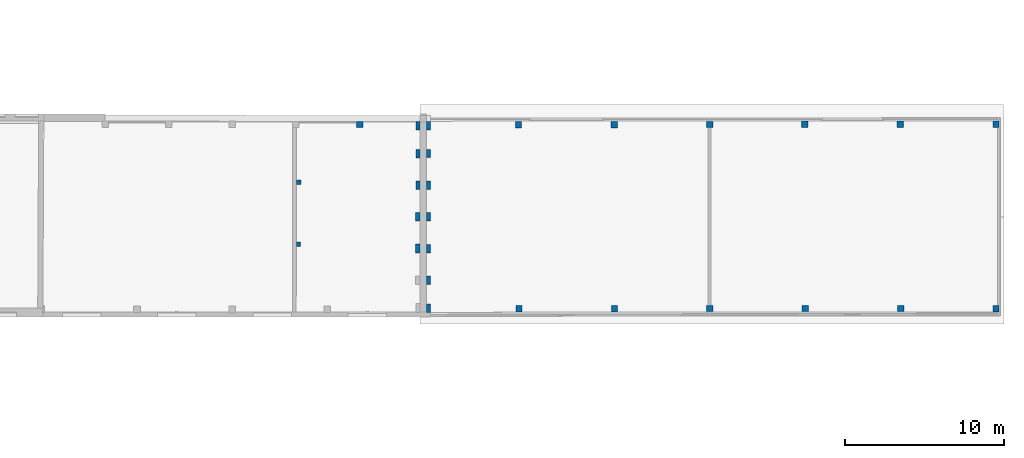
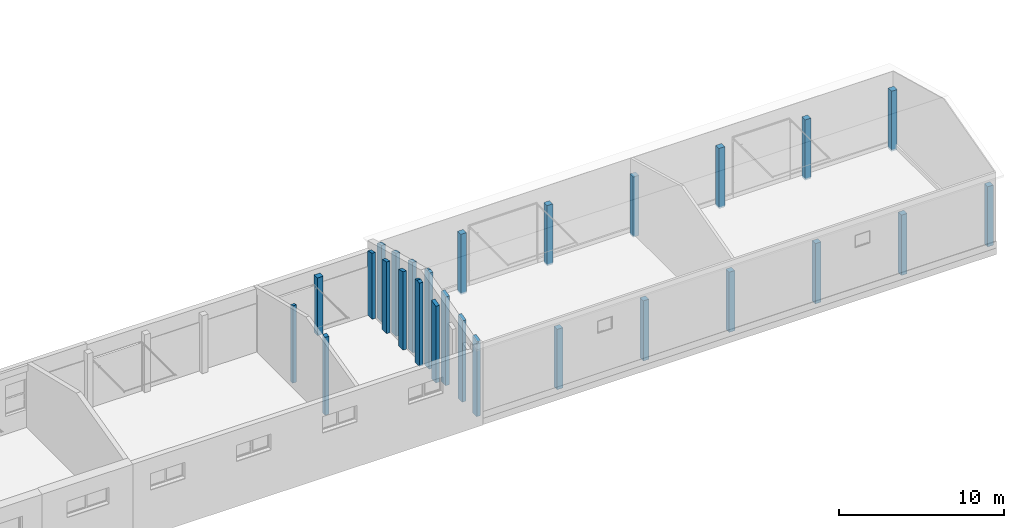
# One storey, part 21 of 301: 27 columns.
"""IFC2X3 building model written with IfcOpenShell, lengths in millimetres."""

from ifc_helpers import new_model, entity, si_unit, converted_unit, derived_unit, money_unit, direction, frame, origin_with_axes, place, context, subcontext, project, spatial, faceted_brep, material, type_object, element, save


model = new_model("IFC2X3")

# Units and contexts
model_context = context("Model", 3, precision=0.01, world=origin_with_axes(), true_north=direction((0.0, 1.0)))
body_context = subcontext(model_context, "Body", "Model", "MODEL_VIEW")
ifc_project = project(units=[si_unit("LENGTHUNIT", "METRE", prefix="MILLI"), si_unit("AREAUNIT", "SQUARE_METRE"), si_unit("VOLUMEUNIT", "CUBIC_METRE"), converted_unit("PLANEANGLEUNIT", "DEGREE", entity("IfcPlaneAngleMeasure", 0.0174532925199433), si_unit("PLANEANGLEUNIT", "RADIAN"), dimensions=[0, 0, 0, 0, 0, 0, 0]), money_unit("EUR"), converted_unit("TIMEUNIT", "Year", entity("IfcTimeMeasure", 31557600.0), si_unit("TIMEUNIT", "SECOND"), dimensions=[0, 0, 1, 0, 0, 0, 0]), si_unit("MASSUNIT", "GRAM", prefix="KILO"), si_unit("THERMODYNAMICTEMPERATUREUNIT", "DEGREE_CELSIUS"), si_unit("LUMINOUSINTENSITYUNIT", "LUMEN"), si_unit("ENERGYUNIT", "JOULE", prefix="MEGA"), derived_unit("THERMALCONDUCTANCEUNIT", [(si_unit("POWERUNIT", "WATT"), 1), (si_unit("LENGTHUNIT", "METRE"), -1), (si_unit("THERMODYNAMICTEMPERATUREUNIT", "KELVIN"), -1)]), derived_unit("SPECIFICHEATCAPACITYUNIT", [(si_unit("ENERGYUNIT", "JOULE"), 1), (si_unit("MASSUNIT", "GRAM", prefix="KILO"), -1), (si_unit("THERMODYNAMICTEMPERATUREUNIT", "KELVIN"), -1)]), derived_unit("MASSDENSITYUNIT", [(si_unit("MASSUNIT", "GRAM", prefix="KILO"), 1), (si_unit("VOLUMEUNIT", "CUBIC_METRE"), -1)])], contexts=[model_context])

# Site, building, storey
site_placement = place(None, frame((0.0, 0.0, 8650.0), z_axis=(0.0, 0.0, 1.0), x_axis=(1.0, 0.0, 0.0)))
site = spatial("IfcSite", under=ifc_project, at=site_placement, Name="43301:001:0844", CompositionType="ELEMENT")
building_placement = place(site_placement, origin_with_axes())
building = spatial("IfcBuilding", under=site, at=building_placement, Name="Kuressaare Ametikooli tuulikute mehaanikute õppekorpus", CompositionType="ELEMENT")
storey_placement = place(building_placement, origin_with_axes())
storey = spatial("IfcBuildingStorey", under=building, at=storey_placement, Name="1.korrus", CompositionType="ELEMENT", Elevation=0.0)

# Columns
ifc_material = material(Name="GENEERILINE - KONSTRUKTRIOON")
column_type_1 = type_object("IfcColumnType", Name="GENEERILINE - KONSTRUKTRIOON 400 x 400", PredefinedType="NOTDEFINED")
for number, where, z_axis, x_axis in (
    (1, (206515.3923405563, 14012.65797418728, -450.0), (0.0, 0.0, 1.0), (-1.0, 0.0, 0.0)),
    (2, (212540.3923405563, 14027.65797418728, -450.0), (0.0, 0.0, 1.0), (-1.0, 0.0, 0.0)),
    (3, (218545.3923405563, 14042.65797418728, -450.0), (0.0, 0.0, 1.0), (-1.0, 0.0, 0.0)),
    (4, (224565.3923405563, 14042.65797418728, -450.0), (0.0, 0.0, 1.0), (-1.0, 0.0, 0.0)),
):
    element("IfcColumn", number, at=place(storey_placement, frame(where, z_axis=z_axis, x_axis=x_axis)), inside=storey, type_object=column_type_1, material=ifc_material, context=body_context, shape_type="Brep", body=[
        faceted_brep([(-199.9999999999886, -199.9999999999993, 4450.0), (-199.9999999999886, -199.9999999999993, 0.0), (200.0000000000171, -199.9999999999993, 0.0), (200.0000000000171, -199.9999999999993, 4450.0), (-199.9999999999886, 200.0000000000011, 4450.0), (-199.9999999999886, 200.0000000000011, 0.0), (200.0000000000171, 200.0000000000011, 0.0), (200.0000000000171, 200.0000000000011, 4450.0)], [[[0, 1, 2, 3]], [[4, 5, 1, 0]], [[2, 1, 5, 6]], [[3, 2, 6, 7]], [[4, 0, 3, 7]], [[7, 6, 5, 4]]]),
    ])
column_1_placement = place(storey_placement, frame((230585.3923405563, 14042.65797418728, -450.0), z_axis=(0.0, 0.0, 1.0), x_axis=(-1.0, 0.0, 0.0)))
element("IfcColumn", 5, at=column_1_placement, inside=storey, type_object=column_type_1, material=ifc_material, context=body_context, shape_type="Brep", body=[
    faceted_brep([(-199.9999999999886, -199.9999999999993, 4450.0), (-199.9999999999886, -199.9999999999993, 0.0), (200.0000000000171, -199.9999999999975, 0.0), (200.0000000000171, -199.9999999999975, 4450.0), (-199.9999999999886, 200.0000000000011, 4450.0), (-199.9999999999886, 200.0000000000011, 0.0), (200.0000000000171, 200.0000000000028, 0.0), (200.0000000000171, 200.0000000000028, 4450.0)], [[[0, 1, 2, 3]], [[4, 5, 1, 0]], [[2, 1, 5, 6]], [[3, 2, 6, 7]], [[4, 0, 3, 7]], [[7, 6, 5, 4]]]),
])
for number, where, z_axis, x_axis in (
    (6, (206485.3923405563, 25612.65797418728, -450.0), (0.0, 0.0, 1.0), (-1.0, 0.0, 0.0)),
    (7, (212520.3923405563, 25627.65797418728, -450.0), (0.0, 0.0, 1.0), (-1.0, 0.0, 0.0)),
    (8, (224540.3923405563, 25647.65797418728, -450.0), (0.0, 0.0, 1.0), (-1.0, 0.0, 0.0)),
    (9, (230560.412329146, 25646.65845933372, -450.0), (0.0, 0.0, 1.0), (-1.0, 0.0, 0.0)),
):
    element("IfcColumn", number, at=place(storey_placement, frame(where, z_axis=z_axis, x_axis=x_axis)), inside=storey, type_object=column_type_1, material=ifc_material, context=body_context, shape_type="Brep", body=[
        faceted_brep([(-199.9999999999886, -199.9999999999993, 4450.0), (-199.9999999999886, -199.9999999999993, 0.0), (200.0000000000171, -199.9999999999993, 0.0), (200.0000000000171, -199.9999999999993, 4450.0), (-199.9999999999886, 199.9999999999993, 4450.0), (-199.9999999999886, 199.9999999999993, 0.0), (200.0000000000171, 199.9999999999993, 0.0), (200.0000000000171, 199.9999999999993, 4450.0)], [[[0, 1, 2, 3]], [[4, 5, 1, 0]], [[2, 1, 5, 6]], [[3, 2, 6, 7]], [[4, 0, 3, 7]], [[7, 6, 5, 4]]]),
    ])
column_2_placement = place(storey_placement, frame((236596.0833386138, 25661.6584239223, -450.0), z_axis=(0.0, 0.0, 1.0), x_axis=(-1.0, 0.0, 0.0)))
element("IfcColumn", 10, at=column_2_placement, inside=storey, type_object=column_type_1, material=ifc_material, context=body_context, shape_type="Brep", body=[
    faceted_brep([(-200.0000354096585, -200.0000354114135, 4450.0), (-200.0000354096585, -200.0000354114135, 0.0), (200.0000354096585, -200.0000354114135, 0.0), (200.0000354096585, -200.0000354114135, 4450.0), (-200.0000354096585, 200.0000354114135, 4450.0), (-200.0000354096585, 200.0000354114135, 0.0), (200.0000354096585, 200.0000354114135, 0.0), (200.0000354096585, 200.0000354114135, 4450.0)], [[[0, 1, 2, 3]], [[4, 5, 1, 0]], [[2, 1, 5, 6]], [[3, 2, 6, 7]], [[4, 0, 3, 7]], [[7, 6, 5, 4]]]),
])
column_3_placement = place(storey_placement, frame((236596.0833740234, 14032.65797418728, -450.0), z_axis=(0.0, 0.0, 1.0), x_axis=(-1.0, 0.0, 0.0)))
element("IfcColumn", 11, at=column_3_placement, inside=storey, type_object=column_type_1, material=ifc_material, context=body_context, shape_type="Brep", body=[
    faceted_brep([(-199.9999999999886, -200.0000000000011, 4450.0), (-199.9999999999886, -200.0000000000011, 0.0), (200.0000000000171, -199.9999999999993, 0.0), (200.0000000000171, -199.9999999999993, 4450.0), (-199.9999999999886, 199.9999999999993, 4450.0), (-199.9999999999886, 199.9999999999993, 0.0), (200.0000000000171, 200.0000000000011, 0.0), (200.0000000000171, 200.0000000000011, 4450.0)], [[[0, 1, 2, 3]], [[4, 5, 1, 0]], [[2, 1, 5, 6]], [[3, 2, 6, 7]], [[4, 0, 3, 7]], [[7, 6, 5, 4]]]),
])
column_4_placement = place(storey_placement, frame((218540.2879932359, 25636.9884853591, -450.0), z_axis=(0.0, 0.0, 1.0), x_axis=(-1.0, 0.0, 0.0)))
element("IfcColumn", 12, at=column_4_placement, inside=storey, type_object=column_type_1, material=ifc_material, context=body_context, shape_type="Brep", body=[
    faceted_brep([(-199.9999999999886, -199.9999999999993, 4450.0), (-199.9999999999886, -199.9999999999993, 0.0), (200.0000000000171, -199.9999999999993, 0.0), (200.0000000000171, -199.9999999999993, 4450.0), (-199.9999999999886, 199.9999999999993, 4450.0), (-199.9999999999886, 199.9999999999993, 0.0), (200.0000000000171, 199.9999999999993, 0.0), (200.0000000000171, 199.9999999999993, 4450.0)], [[[0, 1, 2, 3]], [[4, 5, 1, 0]], [[2, 1, 5, 6]], [[3, 2, 6, 7]], [[4, 0, 3, 7]], [[7, 6, 5, 4]]]),
])
column_5_placement = place(storey_placement, frame((196485.2329982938, 25634.57181605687, 0.0), z_axis=(0.0, 0.0, 1.0), x_axis=(-0.9999994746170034, 0.001025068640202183, 0.0)))
element("IfcColumn", 13, at=column_5_placement, inside=storey, type_object=column_type_1, material=ifc_material, context=body_context, shape_type="Brep", body=[
    faceted_brep([(-200.0000000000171, -199.9999999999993, 4270.0), (-200.0000000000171, -199.9999999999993, 0.0), (199.9999999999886, -199.9999999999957, 0.0), (199.9999999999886, -199.9999999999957, 4270.0), (-200.0000000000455, 200.0000000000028, 4270.0), (-200.0000000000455, 200.0000000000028, 0.0), (199.9999999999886, 200.0000000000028, 0.0), (199.9999999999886, 200.0000000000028, 4270.0)], [[[0, 1, 2, 3]], [[4, 5, 1, 0]], [[2, 1, 5, 6]], [[3, 2, 6, 7]], [[4, 0, 3, 7]], [[7, 6, 5, 4]]]),
])
column_type_2 = type_object("IfcColumnType", Name="GENEERILINE - KONSTRUKTRIOON 275 x 270", PredefinedType="NOTDEFINED")
column_6_placement = place(storey_placement, frame((192626.035155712, 21986.64655433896, 0.0), z_axis=(0.0, 0.0, 1.0), x_axis=(0.002056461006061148, 0.9999978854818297, 0.0)))
element("IfcColumn", 14, at=column_6_placement, inside=storey, type_object=column_type_2, material=ifc_material, context=body_context, shape_type="Brep", body=[
    faceted_brep([(137.5020830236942, 135.0000004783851, 5642.852324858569), (137.5020830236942, -135.000000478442, 5642.988411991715), (137.5020830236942, -135.000000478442, 0.0), (137.5020830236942, 135.0000004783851, 0.0), (-137.5020830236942, -135.000000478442, 5710.39016240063), (-137.5020830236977, 135.0000004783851, 5710.254075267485), (-137.5020830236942, -135.000000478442, 0.0), (-137.5020830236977, 135.0000004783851, 0.0)], [[[0, 1, 2, 3]], [[4, 1, 0, 5]], [[1, 4, 6, 2]], [[3, 2, 6, 7]], [[5, 0, 3, 7]], [[4, 5, 7, 6]]]),
])
column_type_3 = type_object("IfcColumnType", Name="GENEERILINE - KONSTRUKTRIOON 275 x 275", PredefinedType="NOTDEFINED")
column_7_placement = place(storey_placement, frame((192620.5161542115, 18086.64144746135, 0.0), z_axis=(0.0, 0.0, 1.0), x_axis=(0.002056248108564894, 0.9999978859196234, 0.0)))
element("IfcColumn", 15, at=column_7_placement, inside=storey, type_object=column_type_3, material=ifc_material, context=body_context, shape_type="Brep", body=[
    faceted_brep([(137.5020830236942, 137.5002461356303, 5816.069493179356), (137.5020830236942, -137.5002461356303, 5815.931804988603), (137.5020830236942, -137.5002461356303, 0.0), (137.5020830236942, 137.5002461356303, 0.0), (-137.5020830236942, -137.5002461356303, 5748.970168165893), (-137.5020830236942, 137.5002461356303, 5749.107856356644), (-137.5020830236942, -137.5002461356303, 0.0), (-137.5020830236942, 137.5002461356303, 0.0)], [[[0, 1, 2, 3]], [[4, 1, 0, 5]], [[1, 4, 6, 2]], [[3, 2, 6, 7]], [[5, 0, 3, 7]], [[4, 5, 7, 6]]]),
])
column_type_4 = type_object("IfcColumnType", Name="GENEERILINE - KONSTRUKTRIOON 540 x 240", PredefinedType="NOTDEFINED")
column_8_placement = place(storey_placement, frame((200143.6190144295, 23806.4340144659, 0.0), z_axis=(0.0, 0.0, 1.0), x_axis=(0.0, 1.0, 0.0)))
element("IfcColumn", 16, at=column_8_placement, inside=storey, type_object=column_type_4, material=ifc_material, context=body_context, shape_type="Brep", body=[
    faceted_brep([(270.0000009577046, 120.0012858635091, 5164.426709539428), (270.0000009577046, -120.0012860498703, 5164.426709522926), (270.0000009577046, -120.0012858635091, 0.0), (270.0000009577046, 120.0012858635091, 0.0), (-270.0000009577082, -120.0012860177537, 5296.777512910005), (-270.0000009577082, 120.0012858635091, 5296.777512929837), (-270.0000009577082, -120.0012858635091, 0.0), (-270.0000009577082, 120.0012858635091, 0.0)], [[[0, 1, 2, 3]], [[4, 1, 0, 5]], [[1, 4, 6, 2]], [[3, 2, 6, 7]], [[5, 0, 3, 7]], [[4, 5, 7, 6]]]),
])
column_type_5 = type_object("IfcColumnType", Name="GENEERILINE - KONSTRUKTRIOON 540 x 250", PredefinedType="NOTDEFINED")
column_9_placement = place(storey_placement, frame((200138.6202894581, 21806.4340144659, 0.0), z_axis=(0.0, 0.0, 1.0), x_axis=(0.0, 1.0, 0.0)))
element("IfcColumn", 17, at=column_9_placement, inside=storey, type_object=column_type_5, material=ifc_material, context=body_context, shape_type="Brep", body=[
    faceted_brep([(270.0000009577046, 125.0000108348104, 5654.614868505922), (270.0000009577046, -125.0000109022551, 5654.614868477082), (270.0000009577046, -125.0000108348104, 0.0), (270.0000009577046, 125.0000108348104, 0.0), (-270.0000009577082, -125.0000108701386, 5786.965671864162), (-270.0000009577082, 125.0000108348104, 5786.965671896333), (-270.0000009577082, -125.0000108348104, 0.0), (-270.0000009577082, 125.0000108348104, 0.0)], [[[0, 1, 2, 3]], [[4, 1, 0, 5]], [[1, 4, 6, 2]], [[3, 2, 6, 7]], [[5, 0, 3, 7]], [[4, 5, 7, 6]]]),
])
column_type_6 = type_object("IfcColumnType", Name="GENEERILINE - KONSTRUKTRIOON 540 x 260", PredefinedType="NOTDEFINED")
column_10_placement = place(storey_placement, frame((200133.6202906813, 19826.4340144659, 0.0), z_axis=(0.0, 0.0, 1.0), x_axis=(0.0, 1.0, 0.0)))
element("IfcColumn", 18, at=column_10_placement, inside=storey, type_object=column_type_6, material=ifc_material, context=body_context, shape_type="Brep", body=[
    faceted_brep([(270.0000009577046, 130.0000096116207, 6139.901145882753), (270.0000009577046, -130.0000095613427, 6139.901145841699), (270.0000009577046, -130.0000096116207, 0.0), (270.0000009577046, 130.0000096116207, 0.0), (-0.1469342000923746, -130.0000095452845, 6206.112560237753), (-0.1469342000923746, 130.0000096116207, 6206.112560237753), (-270.0000009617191, -130.0000095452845, 6140.405042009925), (-270.0000009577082, -130.0000096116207, 0.0), (-270.0000009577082, 130.0000096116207, 0.0), (-270.0000009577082, 130.0000096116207, 6140.405041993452)], [[[0, 1, 2, 3]], [[4, 1, 0, 5]], [[4, 6, 7, 2, 1]], [[3, 2, 7, 8]], [[5, 0, 3, 8, 9]], [[6, 4, 5, 9]], [[6, 9, 8, 7]]]),
])
column_type_7 = type_object("IfcColumnType", Name="GENEERILINE - KONSTRUKTRIOON 550 x 260", PredefinedType="NOTDEFINED")
column_11_placement = place(storey_placement, frame((200133.6202906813, 17821.43401444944, 0.0), z_axis=(0.0, 0.0, 1.0), x_axis=(0.0, 1.0, 0.0)))
element("IfcColumn", 19, at=column_11_placement, inside=storey, type_object=column_type_7, material=ifc_material, context=body_context, shape_type="Brep", body=[
    faceted_brep([(275.0000009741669, 130.0000096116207, 5784.904259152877), (275.000000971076, -130.0000095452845, 5784.904259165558), (275.0000009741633, -130.0000096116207, 0.0), (275.0000009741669, 130.0000096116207, 0.0), (-275.000000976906, -130.0000095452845, 5650.982730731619), (-275.0000009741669, 130.0000096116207, 5650.982730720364), (-275.0000009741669, -130.0000096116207, 0.0), (-275.0000009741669, 130.0000096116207, 0.0)], [[[0, 1, 2, 3]], [[4, 1, 0, 5]], [[1, 4, 6, 2]], [[3, 2, 6, 7]], [[5, 0, 3, 7]], [[4, 5, 7, 6]]]),
])
column_type_8 = type_object("IfcColumnType", Name="GENEERILINE - KONSTRUKTRIOON 530 x 270", PredefinedType="NOTDEFINED")
column_12_placement = place(storey_placement, frame((200818.6211530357, 23812.0568179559, -450.0), z_axis=(0.0, 0.0, 1.0), x_axis=(1.577850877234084e-07, -0.9999999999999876, 0.0)))
element("IfcColumn", 20, at=column_12_placement, inside=storey, type_object=column_type_8, material=ifc_material, context=body_context, shape_type="Brep", body=[
    faceted_brep([(-265.0000010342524, -135.0008109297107, 6001.895931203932), (-265.0000010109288, 135.0008107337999, 6001.895919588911), (-265.0000010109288, 135.0008107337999, 0.0), (-265.0000010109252, -135.0008107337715, 0.0), (265.0000010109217, 135.0008107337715, 6145.322143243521), (265.0000009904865, -135.0008945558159, 6145.322154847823), (265.0000010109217, 135.0008107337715, 0.0), (265.0000010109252, -135.0008107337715, 0.0)], [[[0, 1, 2, 3]], [[4, 1, 0, 5]], [[1, 4, 6, 2]], [[3, 2, 6, 7]], [[5, 0, 3, 7]], [[4, 5, 7, 6]]]),
])
column_13_placement = place(storey_placement, frame((200818.6204902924, 21812.05475946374, -450.0), z_axis=(0.0, 0.0, 1.0), x_axis=(1.575668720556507e-07, -0.9999999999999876, 0.0)))
element("IfcColumn", 21, at=column_13_placement, inside=storey, type_object=column_type_8, material=ifc_material, context=body_context, shape_type="Brep", body=[
    faceted_brep([(-265.0000010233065, -135.0001482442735, 6543.127518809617), (-265.0000010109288, 135.0001479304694, 6543.127507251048), (-265.0000010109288, 135.0001479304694, 0.0), (-265.0000010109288, -135.0001479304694, 0.0), (265.0000010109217, 135.0001479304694, 6686.55373090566), (265.0000010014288, -135.0002317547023, 6686.553742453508), (265.0000010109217, 135.0001479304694, 0.0), (265.0000010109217, -135.0001479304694, 0.0)], [[[0, 1, 2, 3]], [[4, 1, 0, 5]], [[1, 4, 6, 2]], [[3, 2, 6, 7]], [[5, 0, 3, 7]], [[4, 5, 7, 6]]]),
])
column_type_9 = type_object("IfcColumnType", Name="GENEERILINE - KONSTRUKTRIOON 539 x 240", PredefinedType="NOTDEFINED")
column_14_placement = place(storey_placement, frame((200143.6200680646, 25561.32008864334, 0.0), z_axis=(0.0, 0.0, 1.0), x_axis=(0.0, 1.0, 0.0)))
element("IfcColumn", 22, at=column_14_placement, inside=storey, type_object=column_type_9, material=ifc_material, context=body_context, shape_type="Brep", body=[
    faceted_brep([(269.3789855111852, 120.0012858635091, 4734.466729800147), (269.3789855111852, -120.0002325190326, 4734.466729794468), (269.3789855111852, -120.0012858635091, 0.0), (269.3789855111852, 120.0012858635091, 0.0), (-269.3789855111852, -120.0002324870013, 4866.513118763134), (-269.3789855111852, 120.0012858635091, 4866.513118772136), (-269.3789855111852, -120.0012858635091, 0.0), (-269.3789855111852, 120.0012858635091, 0.0)], [[[0, 1, 2, 3]], [[4, 1, 0, 5]], [[1, 4, 6, 2]], [[3, 2, 6, 7]], [[5, 0, 3, 7]], [[4, 5, 7, 6]]]),
])
column_type_10 = type_object("IfcColumnType", Name="GENEERILINE - KONSTRUKTRIOON 540 x 270", PredefinedType="NOTDEFINED")
column_15_placement = place(storey_placement, frame((200818.6203518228, 19827.0525984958, -450.0), z_axis=(0.0, 0.0, 1.0), x_axis=(1.571394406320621e-07, -0.9999999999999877, 0.0)))
element("IfcColumn", 23, at=column_15_placement, inside=storey, type_object=column_type_10, material=ifc_material, context=body_context, shape_type="Brep", body=[
    faceted_brep([(-270.0000009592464, -135.0000091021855, 7078.946823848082), (-270.0000009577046, 135.0000085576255, 7078.946812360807), (-270.0000009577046, 135.0000085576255, 0.0), (-270.0000009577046, -135.0000085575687, 0.0), (11.59340337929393, 135.0000085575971, 7155.15035657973), (11.5933609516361, -135.0000533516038, 7155.15035657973), (270.0000009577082, 135.0000085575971, 7085.677853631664), (270.0000009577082, 135.0000085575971, 0.0), (270.0000009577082, -135.0000085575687, 0.0), (270.0000009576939, -135.0000939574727, 7085.677842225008)], [[[0, 1, 2, 3]], [[4, 1, 0, 5]], [[4, 6, 7, 2, 1]], [[3, 2, 7, 8]], [[5, 0, 3, 8, 9]], [[6, 4, 5, 9]], [[6, 9, 8, 7]]]),
])
column_16_placement = place(storey_placement, frame((200818.6203088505, 17817.10443395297, -450.0), z_axis=(0.0, 0.0, 1.0), x_axis=(0.0, -1.0, 0.0)))
element("IfcColumn", 24, at=column_16_placement, inside=storey, type_object=column_type_10, material=ifc_material, context=body_context, shape_type="Brep", body=[
    faceted_brep([(-270.0000009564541, -135.0000085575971, 6690.482914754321), (-270.0000009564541, 135.0000085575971, 6690.482914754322), (-270.0000009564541, 135.0000085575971, 0.0), (-270.0000009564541, -135.0000085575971, 0.0), (270.0000009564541, 135.0000085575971, 6545.304145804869), (270.0000009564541, -135.0000085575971, 6545.304145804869), (270.0000009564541, 135.0000085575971, 0.0), (270.0000009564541, -135.0000085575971, 0.0)], [[[0, 1, 2, 3]], [[4, 1, 0, 5]], [[1, 4, 6, 2]], [[3, 2, 6, 7]], [[5, 0, 3, 7]], [[4, 5, 7, 6]]]),
])
column_17_placement = place(storey_placement, frame((200818.620300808, 15807.08025461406, -450.0), z_axis=(0.0, 0.0, 1.0), x_axis=(0.0, -1.0, 0.0)))
element("IfcColumn", 25, at=column_17_placement, inside=storey, type_object=column_type_10, material=ifc_material, context=body_context, shape_type="Brep", body=[
    faceted_brep([(-270.0000010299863, -135.0000005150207, 6150.088776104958), (-270.0000010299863, 135.0000005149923, 6150.088776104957), (-270.0000010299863, 135.0000005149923, 0.0), (-270.0000010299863, -135.0000005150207, 0.0), (270.0000010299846, 135.0000005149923, 6004.910007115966), (270.0000010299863, -135.0000005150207, 6004.910007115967), (270.0000010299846, 135.0000005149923, 0.0), (270.0000010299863, -135.0000005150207, 0.0)], [[[0, 1, 2, 3]], [[4, 1, 0, 5]], [[1, 4, 6, 2]], [[3, 2, 6, 7]], [[5, 0, 3, 7]], [[4, 5, 7, 6]]]),
])
column_type_11 = type_object("IfcColumnType", Name="GENEERILINE - KONSTRUKTRIOON 550 x 270", PredefinedType="NOTDEFINED")
column_18_placement = place(storey_placement, frame((200818.7097368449, 14052.26176611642, -450.0), z_axis=(0.0, 0.0, 1.0), x_axis=(-1.991219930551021e-07, -0.9999999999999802, 0.0)))
element("IfcColumn", 26, at=column_18_placement, inside=storey, type_object=column_type_11, material=ifc_material, context=body_context, shape_type="Brep", body=[
    faceted_brep([(-275.0000139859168, -135.0894913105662, 5679.65083655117), (-275.0000139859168, 135.0894916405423, 5679.650822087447), (-275.0000139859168, 135.0894916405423, 0.0), (-275.0000139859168, -135.0894916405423, 0.0), (275.0000139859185, 135.0894916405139, 5531.783550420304), (244.6040761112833, -135.0893878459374, 5539.955499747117), (275.0000139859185, -135.0894916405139, 5531.783564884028), (275.0000139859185, 135.0894916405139, 0.0), (275.0000139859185, -135.0894916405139, 0.0)], [[[0, 1, 2, 3]], [[4, 1, 0, 5, 6]], [[1, 4, 7, 2]], [[3, 2, 7, 8]], [[5, 0, 3, 8, 6]], [[4, 6, 8, 7]]]),
])
column_type_12 = type_object("IfcColumnType", Name="GENEERILINE - KONSTRUKTRIOON 539 x 271", PredefinedType="NOTDEFINED")
column_19_placement = place(storey_placement, frame((200819.2377467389, 25560.27412737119, -450.0), z_axis=(0.0, 0.0, 1.0), x_axis=(0.0, -1.0, 0.0)))
element("IfcColumn", 27, at=column_19_placement, inside=storey, type_object=column_type_12, material=ifc_material, context=body_context, shape_type="Brep", body=[
    faceted_brep([(-269.7158997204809, -135.6174464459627, 5527.525002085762), (-269.7158996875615, 135.6174464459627, 5527.525001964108), (-269.7158996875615, 135.6174464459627, 0.0), (-269.7158996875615, -135.6174464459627, 0.0), (269.7158996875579, 135.6174464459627, 5673.503616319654), (269.7158996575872, -135.6174464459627, 5673.503616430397), (269.7158996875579, 135.6174464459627, 0.0), (269.7158996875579, -135.6174464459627, 0.0)], [[[0, 1, 2, 3]], [[4, 1, 0, 5]], [[1, 4, 6, 2]], [[3, 2, 6, 7]], [[5, 0, 3, 7]], [[4, 5, 7, 6]]]),
])

save(model, "model.ifc")
